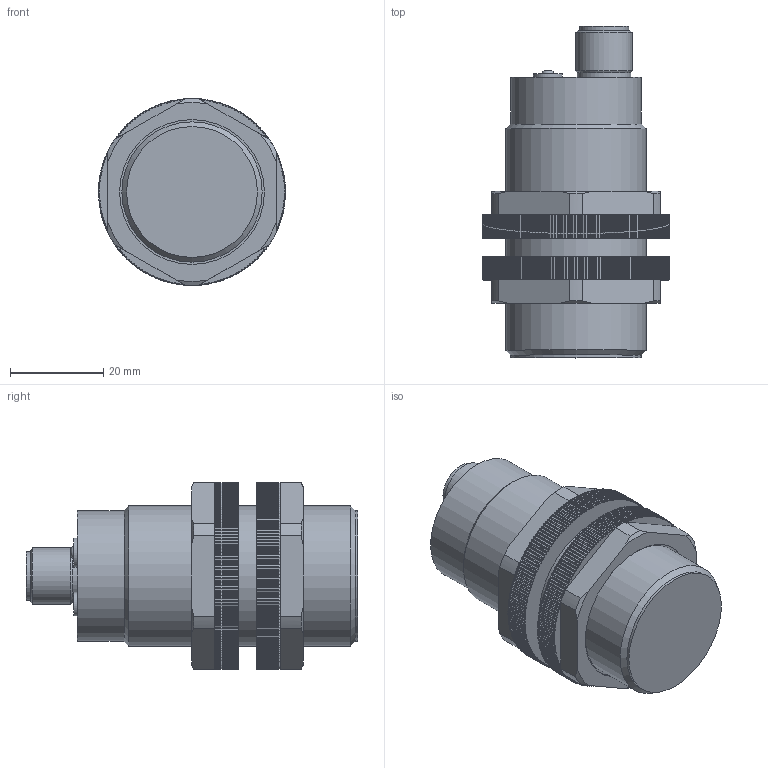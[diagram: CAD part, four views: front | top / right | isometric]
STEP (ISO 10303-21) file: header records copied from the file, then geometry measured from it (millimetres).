
FILE_DESCRIPTION((''),'2;1');
FILE_NAME('C:\TurckZip\BC-S30-X-H1.stp','2010-01-15T11:38:43',('IKOROL'),(''),'Autodesk Inventor 2009','Autodesk Inventor 2009','');
FILE_SCHEMA(('CONFIG_CONTROL_DESIGN'));
Length unit declared in the file: millimetre
Products named in the file (1): Part7
Bounding box: 40 x 71 x 40 mm (x, y, z)
Volume: 51379.6 mm3; surface area: 11356.8 mm2
Topology: 2 solids, 7 shells, 2308 faces, 6766 edges, 4491 vertices
Faces by surface type: cylinder 1423, plane 849, cone 21, bspline 10, torus 5
Full cylindrical faces by diameter (mm): 1 x8, 2.5 x3, 5 x1, 6.2 x1, 8 x1, 8.3 x1, 9 x1, 9.5 x1, 10.5 x1, 11.5 x1, 12 x1, 28 x2, 30 x3, 31 x4
Entity records: 80232 total; most frequent: DIRECTION 14292, CARTESIAN_POINT 13880, ORIENTED_EDGE 13434, EDGE_CURVE 6717, AXIS2_PLACEMENT_3D 5310, VERTEX_POINT 4486, VECTOR 3672, LINE 3672
